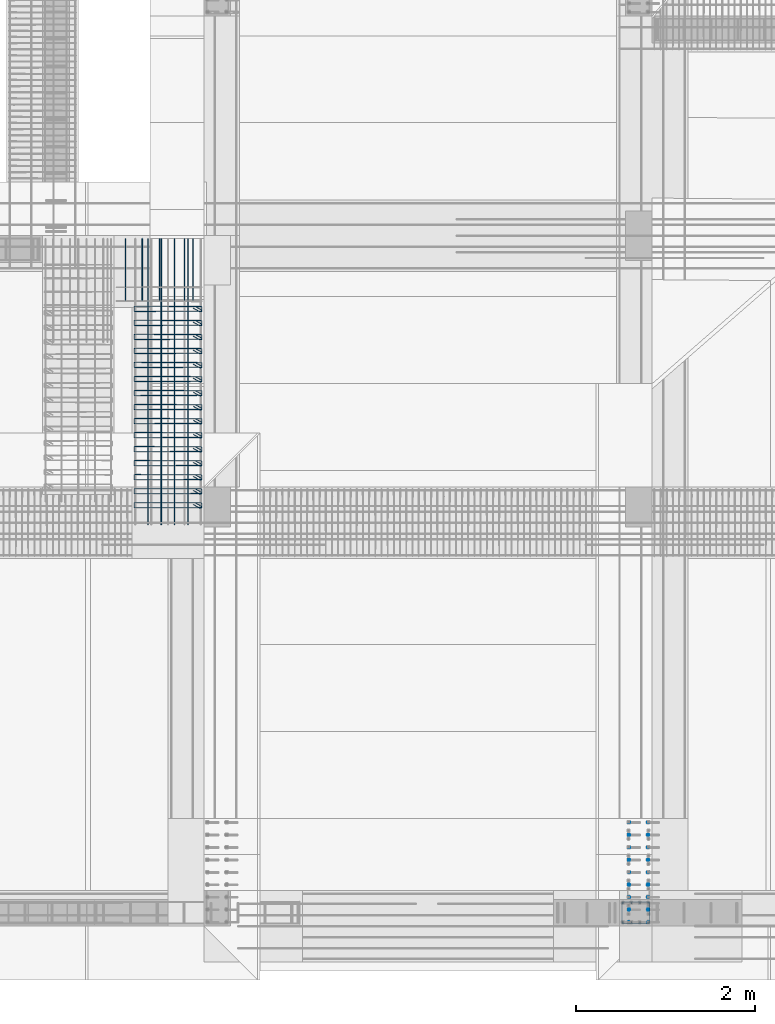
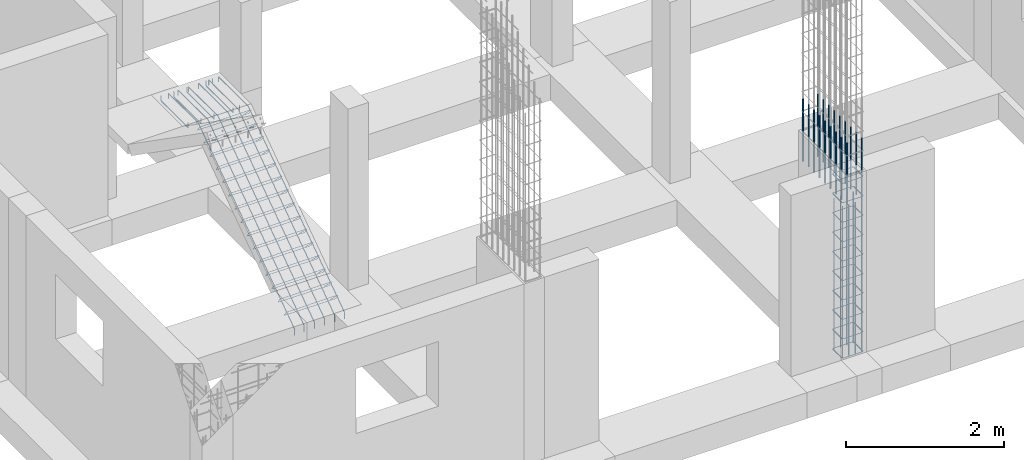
# One storey, part 6 of 15: 6 reinforcing bars.
"""IFC4 building model written with IfcOpenShell, lengths in metres."""

import ifcopenshell
import ifcopenshell.guid

model = None  # the IFC model being written
_history = None  # IfcOwnerHistory: only IFC2X3 demands one
_inside = {}  # id of a spatial element -> (the spatial element, [elements in it])
_under = {}  # id of a project, library or spatial element -> (it, [spatial elements below it])
_declared = {}  # id of a project -> (the project, [libraries it declares])
_typed = {}  # id of a type object -> (the type object, [elements of that type])
_made_of = {}  # id of a material, layer set ... -> (it, [elements and type objects made of it])


def new_model(schema):
    """Start an empty IFC model of exactly this schema.

    Asked for "IFC4X3", IfcOpenShell would pick the latest addendum, in which some entities
    have other attributes; the version numbers below select the first issue.
    IFC2X3 requires an IfcOwnerHistory on every rooted entity: one is made here for all.
    """
    global model, _history
    if schema == "IFC4X3":
        model = ifcopenshell.file(schema_version=(4, 3, 0, 0))
    else:
        model = ifcopenshell.file(schema=schema)
    _inside.clear()
    _under.clear()
    _declared.clear()
    _typed.clear()
    _made_of.clear()
    _history = None
    if model.schema == "IFC2X3":
        org = make("IfcOrganization", Name="unknown")
        user = make(
            "IfcPersonAndOrganization",
            ThePerson=make("IfcPerson", FamilyName="unknown"),
            TheOrganization=org,
        )
        app = make(
            "IfcApplication",
            ApplicationDeveloper=org,
            Version="unknown",
            ApplicationFullName="unknown",
            ApplicationIdentifier="unknown",
        )
        _history = make(
            "IfcOwnerHistory",
            OwningUser=user,
            OwningApplication=app,
            ChangeAction="ADDED",
            CreationDate=0,
        )
    return model


def make(cls, **values):
    """One entity of the class cls with the attributes given. An attribute that is None is left unset."""
    return model.create_entity(
        cls, **{name: value for name, value in values.items() if value is not None}
    )


def entity(cls, *values):
    """Any entity or typed value of the class cls, its attributes in the order of the schema. None: left unset."""
    e = model.create_entity(cls)
    for i, value in enumerate(values):
        if value is not None:
            e[i] = value
    return e


def rooted(cls, **values):
    """An entity with a GlobalId (a new one), such as an element, a storey or a relation."""
    return make(cls, GlobalId=ifcopenshell.guid.new(), OwnerHistory=_history, **values)


def si_unit(unit_type, name, prefix=None):
    """IfcSIUnit, for example si_unit("LENGTHUNIT", "METRE", prefix="MILLI")."""
    return make("IfcSIUnit", UnitType=unit_type, Prefix=prefix, Name=name)


def assignment(units):
    """IfcUnitAssignment: the units of a project."""
    return None if units is None else make("IfcUnitAssignment", Units=units)


def point(xyz):
    """IfcCartesianPoint."""
    return None if xyz is None else make("IfcCartesianPoint", Coordinates=xyz)


def direction(xyz):
    """IfcDirection."""
    return None if xyz is None else make("IfcDirection", DirectionRatios=xyz)


def frame(location, z_axis=None, x_axis=None):
    """IfcAxis2Placement3D, a coordinate frame: its origin and axes. An axis left out is left unset."""
    return make(
        "IfcAxis2Placement3D",
        Location=point(location),
        Axis=direction(z_axis),
        RefDirection=direction(x_axis),
    )


def origin_with_axes():
    """The frame at (0, 0, 0) with the z axis (0, 0, 1) and the x axis (1, 0, 0) written out."""
    return frame((0.0, 0.0, 0.0), z_axis=(0.0, 0.0, 1.0), x_axis=(1.0, 0.0, 0.0))


def place(relative_to, where):
    """IfcLocalPlacement: puts the frame where relative to a parent placement (None: the world)."""
    return make(
        "IfcLocalPlacement", PlacementRelTo=relative_to, RelativePlacement=where
    )


def context(
    kind, dimensions, precision=None, world=None, true_north=None, identifier=None
):
    """IfcGeometricRepresentationContext, for example the 3D "Model" context."""
    return make(
        "IfcGeometricRepresentationContext",
        ContextIdentifier=identifier,
        ContextType=kind,
        CoordinateSpaceDimension=dimensions,
        Precision=precision,
        WorldCoordinateSystem=world,
        TrueNorth=true_north,
    )


def project(units=None, contexts=None):
    """IfcProject with its units and contexts."""
    return rooted(
        "IfcProject",
        Name="project",
        RepresentationContexts=contexts,
        UnitsInContext=assignment(units),
    )


def spatial(cls, under=None, at=None, **own):
    """A site, building, storey or space (cls), placed at a placement, below another one or the project."""
    s = rooted(cls, ObjectPlacement=at, **own)
    if under is not None:
        _under.setdefault(under.id(), (under, []))[1].append(s)
    return s


def shape(context_of_items, identifier, shape_type, items):
    """IfcShapeRepresentation: the items that make up one representation, for example the "Body"."""
    return make(
        "IfcShapeRepresentation",
        ContextOfItems=context_of_items,
        RepresentationIdentifier=identifier,
        RepresentationType=shape_type,
        Items=items,
    )


def source(mapping_origin, context_of_items, identifier, shape_type, items):
    """IfcRepresentationMap: a shape defined once, which mapped items show again and again."""
    return make(
        "IfcRepresentationMap",
        MappingOrigin=mapping_origin,
        MappedRepresentation=shape(context_of_items, identifier, shape_type, items),
    )


def transform(
    local_origin,
    x_axis=None,
    y_axis=None,
    z_axis=None,
    scale=None,
    scale2=None,
    scale3=None,
    uniform=True,
):
    """IfcCartesianTransformationOperator3D, or its non-uniform kind. x_axis, y_axis, z_axis: its Axis1, 2, 3."""
    if uniform:
        return make(
            "IfcCartesianTransformationOperator3D",
            Axis1=direction(x_axis),
            Axis2=direction(y_axis),
            LocalOrigin=point(local_origin),
            Scale=scale,
            Axis3=direction(z_axis),
        )
    return make(
        "IfcCartesianTransformationOperator3DnonUniform",
        Axis1=direction(x_axis),
        Axis2=direction(y_axis),
        LocalOrigin=point(local_origin),
        Scale=scale,
        Axis3=direction(z_axis),
        Scale2=scale2,
        Scale3=scale3,
    )


def mapped(mapping_source, mapping_target):
    """IfcMappedItem: shows the shape of a source again, moved by a transform."""
    return make(
        "IfcMappedItem", MappingSource=mapping_source, MappingTarget=mapping_target
    )


def made_of(thing, what):
    """Note that an element or type object is made of a material, layer set ...; save() writes the relation."""
    if what is not None:
        _made_of.setdefault(what.id(), (what, []))[1].append(thing)
    return thing


def element(
    cls,
    number,
    at=None,
    inside=None,
    cuts=None,
    type_object=None,
    material=None,
    context=None,
    identifier="Body",
    shape_type=None,
    held_by="IfcProductDefinitionShape",
    body=None,
    shapes=None,
    **own,
):
    """One element of the class cls, such as IfcWall. Its Tag is "e" and its number.

    at: its placement. inside: the storey or other place that contains it. cuts: it is an
    opening in that element (IfcRelVoidsElement). A single representation is given by context,
    identifier, shape_type and body (its items); several are given by shapes. held_by: the class
    of the entity that holds the representations. save() writes the other relations.
    """
    e = rooted(cls, Tag="e%d" % number, ObjectPlacement=at, **own)
    if body is not None:
        shapes = [shape(context, identifier, shape_type, body)]
    if shapes is not None:
        e.Representation = make(held_by, Representations=shapes)
    if inside is not None:
        _inside.setdefault(inside.id(), (inside, []))[1].append(e)
    if cuts is not None:
        rooted(
            "IfcRelVoidsElement", RelatingBuildingElement=cuts, RelatedOpeningElement=e
        )
    if type_object is not None:
        _typed.setdefault(type_object.id(), (type_object, []))[1].append(e)
    return made_of(e, material)


def aggregate(whole, parts):
    """IfcRelAggregates: a whole, such as a stair, and the parts it consists of."""
    return rooted("IfcRelAggregates", RelatingObject=whole, RelatedObjects=parts)


def save(model, path):
    """Write the relations noted so far, then the file.

    IfcRelAggregates (storeys below a building ...), IfcRelContainedInSpatialStructure (elements
    in a storey), IfcRelDefinesByType, IfcRelAssociatesMaterial and IfcRelDeclares: one each for
    every whole, place, type object, material and project.
    """
    for whole, parts in _under.values():
        aggregate(whole, parts)
    for where, things in _inside.values():
        rooted(
            "IfcRelContainedInSpatialStructure",
            RelatedElements=things,
            RelatingStructure=where,
        )
    for kind, things in _typed.values():
        rooted("IfcRelDefinesByType", RelatedObjects=things, RelatingType=kind)
    for what, things in _made_of.values():
        rooted("IfcRelAssociatesMaterial", RelatedObjects=things, RelatingMaterial=what)
    for by, libraries in _declared.values():
        rooted("IfcRelDeclares", RelatingContext=by, RelatedDefinitions=libraries)
    model.write(path)


model = new_model("IFC4")

# Units and contexts
model_context = context("Model", 3, precision=1e-05, world=origin_with_axes())
ifc_project = project(units=[si_unit("LENGTHUNIT", "METRE"), si_unit("AREAUNIT", "SQUARE_METRE"), si_unit("VOLUMEUNIT", "CUBIC_METRE"), si_unit("MASSUNIT", "GRAM", prefix="KILO"), si_unit("TIMEUNIT", "SECOND"), si_unit("PLANEANGLEUNIT", "RADIAN"), si_unit("SOLIDANGLEUNIT", "STERADIAN"), si_unit("THERMODYNAMICTEMPERATUREUNIT", "DEGREE_CELSIUS")], contexts=[model_context])

# Site, building, storey
placement_1 = place(None, origin_with_axes())
site = spatial("IfcSite", under=ifc_project, at=placement_1, Name="Italia", CompositionType="ELEMENT")
building = spatial("IfcBuilding", under=site, at=placement_1, Name="Bifamiliare", CompositionType="ELEMENT")
storey = spatial("IfcBuildingStorey", under=building, at=placement_1, Name="Storey 0", CompositionType="ELEMENT", Elevation=0.0)

# Reinforcing bars
shared_shape_1 = source(origin_with_axes(), model_context, "Body", "AdvancedSweptSolid", [
    entity("IfcSweptDiskSolid", entity("IfcIndexedPolyCurve", entity("IfcCartesianPointList3D", [[10.757, 2.557, 2.33333], [10.757, 2.557, 3.3]]), [entity("IfcLineIndex", [1, 2])], False), 0.01),
])
placement_2 = place(placement_1, origin_with_axes())
reinforcing_bar_1_placement = place(placement_2, origin_with_axes())
element("IfcReinforcingBar", 1, at=reinforcing_bar_1_placement, inside=storey, BarLength=0.966667, CrossSectionArea=0.00031416, NominalDiameter=0.02, context=model_context, shape_type="MappedRepresentation", body=[
    mapped(shared_shape_1, transform((0.0, -1.114, 0.0), x_axis=(1.0, 0.0, 0.0), y_axis=(0.0, 1.0, 0.0), z_axis=(0.0, 0.0, 1.0), scale=1.0)),
    mapped(shared_shape_1, transform((0.0, -0.97325, 0.0), x_axis=(1.0, 0.0, 0.0), y_axis=(0.0, 1.0, 0.0), z_axis=(0.0, 0.0, 1.0), scale=1.0)),
    mapped(shared_shape_1, transform((0.0, -0.8345, 0.0), x_axis=(1.0, 0.0, 0.0), y_axis=(0.0, 1.0, 0.0), z_axis=(0.0, 0.0, 1.0), scale=1.0)),
    mapped(shared_shape_1, transform((0.0, -0.69575, 0.0), x_axis=(1.0, 0.0, 0.0), y_axis=(0.0, 1.0, 0.0), z_axis=(0.0, 0.0, 1.0), scale=1.0)),
    mapped(shared_shape_1, transform((0.0, -0.557, 0.0), x_axis=(1.0, 0.0, 0.0), y_axis=(0.0, 1.0, 0.0), z_axis=(0.0, 0.0, 1.0), scale=1.0)),
    mapped(shared_shape_1, transform((0.0, -0.41825, 0.0), x_axis=(1.0, 0.0, 0.0), y_axis=(0.0, 1.0, 0.0), z_axis=(0.0, 0.0, 1.0), scale=1.0)),
    mapped(shared_shape_1, transform((0.0, -0.2795, 0.0), x_axis=(1.0, 0.0, 0.0), y_axis=(0.0, 1.0, 0.0), z_axis=(0.0, 0.0, 1.0), scale=1.0)),
    mapped(shared_shape_1, transform((0.0, -0.14075, 0.0), x_axis=(1.0, 0.0, 0.0), y_axis=(0.0, 1.0, 0.0), z_axis=(0.0, 0.0, 1.0), scale=1.0)),
    mapped(shared_shape_1, transform((0.0, 0.0, 0.0), x_axis=(1.0, 0.0, 0.0), y_axis=(0.0, 1.0, 0.0), z_axis=(0.0, 0.0, 1.0), scale=1.0)),
    mapped(shared_shape_1, transform((-0.214001, 0.0, 0.0), x_axis=(1.0, 0.0, 0.0), y_axis=(0.0, 1.0, 0.0), z_axis=(0.0, 0.0, 1.0), scale=1.0)),
    mapped(shared_shape_1, transform((-0.214001, -0.14075, 0.0), x_axis=(1.0, 0.0, 0.0), y_axis=(0.0, 1.0, 0.0), z_axis=(0.0, 0.0, 1.0), scale=1.0)),
    mapped(shared_shape_1, transform((-0.214001, -0.2795, 0.0), x_axis=(1.0, 0.0, 0.0), y_axis=(0.0, 1.0, 0.0), z_axis=(0.0, 0.0, 1.0), scale=1.0)),
    mapped(shared_shape_1, transform((-0.214001, -0.41825, 0.0), x_axis=(1.0, 0.0, 0.0), y_axis=(0.0, 1.0, 0.0), z_axis=(0.0, 0.0, 1.0), scale=1.0)),
    mapped(shared_shape_1, transform((-0.214001, -0.557, 0.0), x_axis=(1.0, 0.0, 0.0), y_axis=(0.0, 1.0, 0.0), z_axis=(0.0, 0.0, 1.0), scale=1.0)),
    mapped(shared_shape_1, transform((-0.214001, -0.69575, 0.0), x_axis=(1.0, 0.0, 0.0), y_axis=(0.0, 1.0, 0.0), z_axis=(0.0, 0.0, 1.0), scale=1.0)),
    mapped(shared_shape_1, transform((-0.214001, -0.8345, 0.0), x_axis=(1.0, 0.0, 0.0), y_axis=(0.0, 1.0, 0.0), z_axis=(0.0, 0.0, 1.0), scale=1.0)),
    mapped(shared_shape_1, transform((-0.214001, -0.97325, 0.0), x_axis=(1.0, 0.0, 0.0), y_axis=(0.0, 1.0, 0.0), z_axis=(0.0, 0.0, 1.0), scale=1.0)),
    mapped(shared_shape_1, transform((-0.214001, -1.114, 0.0), x_axis=(1.0, 0.0, 0.0), y_axis=(0.0, 1.0, 0.0), z_axis=(0.0, 0.0, 1.0), scale=1.0)),
])
shared_shape_2 = source(origin_with_axes(), model_context, "Body", "AdvancedSweptSolid", [
    entity("IfcSweptDiskSolid", entity("IfcIndexedPolyCurve", entity("IfcCartesianPointList3D", [[10.757, 1.443, 0.0], [10.757, 1.443, 0.466668]]), [entity("IfcLineIndex", [1, 2])], False), 0.008),
])
reinforcing_bar_2_placement = place(placement_2, origin_with_axes())
element("IfcReinforcingBar", 2, at=reinforcing_bar_2_placement, inside=storey, BarLength=0.466668, CrossSectionArea=0.00020106, NominalDiameter=0.016, context=model_context, shape_type="MappedRepresentation", body=[
    mapped(shared_shape_2, transform((-0.0935555, 0.214, 0.0), x_axis=(1.0, 0.0, 0.0), y_axis=(0.0, 1.0, 0.0), z_axis=(0.0, 0.0, 1.0), scale=1.0)),
    mapped(shared_shape_2, transform((-0.187111, 0.0, 0.0), x_axis=(1.0, 0.0, 0.0), y_axis=(0.0, 1.0, 0.0), z_axis=(0.0, 0.0, 1.0), scale=1.0)),
    mapped(shared_shape_2, transform((-0.280666, 0.0, 0.0), x_axis=(1.0, 0.0, 0.0), y_axis=(0.0, 1.0, 0.0), z_axis=(0.0, 0.0, 1.0), scale=1.0)),
    mapped(shared_shape_2, transform((-0.280667, 0.0, 0.466667), x_axis=(1.0, 0.0, 0.0), y_axis=(0.0, 1.0, 0.0), z_axis=(0.0, 0.0, 1.0), scale=1.0)),
    mapped(shared_shape_2, transform((-0.280666, 0.0, 1.86667), x_axis=(1.0, 0.0, 0.0), y_axis=(0.0, 1.0, 0.0), z_axis=(0.0, 0.0, 1.0), scale=1.0)),
    mapped(shared_shape_2, transform((-0.280666, 0.0, 1.4), x_axis=(1.0, 0.0, 0.0), y_axis=(0.0, 1.0, 0.0), z_axis=(0.0, 0.0, 1.0), scale=1.0)),
    mapped(shared_shape_2, transform((-0.187111, 0.0, 1.86667), x_axis=(1.0, 0.0, 0.0), y_axis=(0.0, 1.0, 0.0), z_axis=(0.0, 0.0, 1.0), scale=1.0)),
    mapped(shared_shape_2, transform((-0.187111, 0.0, 0.933333), x_axis=(1.0, 0.0, 0.0), y_axis=(0.0, 1.0, 0.0), z_axis=(0.0, 0.0, 1.0), scale=1.0)),
    mapped(shared_shape_2, transform((-0.280666, 0.0, 0.933333), x_axis=(1.0, 0.0, 0.0), y_axis=(0.0, 1.0, 0.0), z_axis=(0.0, 0.0, 1.0), scale=1.0)),
    mapped(shared_shape_2, transform((-0.187111, 0.0, 1.4), x_axis=(1.0, 0.0, 0.0), y_axis=(0.0, 1.0, 0.0), z_axis=(0.0, 0.0, 1.0), scale=1.0)),
    mapped(shared_shape_2, transform((-0.187111, 0.0, 0.466667), x_axis=(1.0, 0.0, 0.0), y_axis=(0.0, 1.0, 0.0), z_axis=(0.0, 0.0, 1.0), scale=1.0)),
    mapped(shared_shape_2, transform((-0.0935555, 0.0, 1.4), x_axis=(1.0, 0.0, 0.0), y_axis=(0.0, 1.0, 0.0), z_axis=(0.0, 0.0, 1.0), scale=1.0)),
    mapped(shared_shape_2, transform((-0.0935555, 0.0, 0.933333), x_axis=(1.0, 0.0, 0.0), y_axis=(0.0, 1.0, 0.0), z_axis=(0.0, 0.0, 1.0), scale=1.0)),
    mapped(shared_shape_2, transform((-0.0935555, 0.0, 1.86667), x_axis=(1.0, 0.0, 0.0), y_axis=(0.0, 1.0, 0.0), z_axis=(0.0, 0.0, 1.0), scale=1.0)),
    mapped(shared_shape_2, transform((-0.187111, 0.214, 0.0), x_axis=(1.0, 0.0, 0.0), y_axis=(0.0, 1.0, 0.0), z_axis=(0.0, 0.0, 1.0), scale=1.0)),
    mapped(shared_shape_2, transform((-0.280666, 0.214, 0.0), x_axis=(1.0, 0.0, 0.0), y_axis=(0.0, 1.0, 0.0), z_axis=(0.0, 0.0, 1.0), scale=1.0)),
    mapped(shared_shape_2, transform((0.0, 0.214, 0.0), x_axis=(1.0, 0.0, 0.0), y_axis=(0.0, 1.0, 0.0), z_axis=(0.0, 0.0, 1.0), scale=1.0)),
    mapped(shared_shape_2, transform((-0.187111, 0.214, 0.466667), x_axis=(1.0, 0.0, 0.0), y_axis=(0.0, 1.0, 0.0), z_axis=(0.0, 0.0, 1.0), scale=1.0)),
    mapped(shared_shape_2, transform((-0.280667, 0.214, 0.466667), x_axis=(1.0, 0.0, 0.0), y_axis=(0.0, 1.0, 0.0), z_axis=(0.0, 0.0, 1.0), scale=1.0)),
    mapped(shared_shape_2, transform((-0.280666, 0.214, 0.933333), x_axis=(1.0, 0.0, 0.0), y_axis=(0.0, 1.0, 0.0), z_axis=(0.0, 0.0, 1.0), scale=1.0)),
    mapped(shared_shape_2, transform((-0.280666, 0.214, 1.4), x_axis=(1.0, 0.0, 0.0), y_axis=(0.0, 1.0, 0.0), z_axis=(0.0, 0.0, 1.0), scale=1.0)),
    mapped(shared_shape_2, transform((-0.0935555, 0.214, 1.86667), x_axis=(1.0, 0.0, 0.0), y_axis=(0.0, 1.0, 0.0), z_axis=(0.0, 0.0, 1.0), scale=1.0)),
    mapped(shared_shape_2, transform((-0.187111, 0.214, 1.86667), x_axis=(1.0, 0.0, 0.0), y_axis=(0.0, 1.0, 0.0), z_axis=(0.0, 0.0, 1.0), scale=1.0)),
    mapped(shared_shape_2, transform((-0.0935555, 0.214, 1.4), x_axis=(1.0, 0.0, 0.0), y_axis=(0.0, 1.0, 0.0), z_axis=(0.0, 0.0, 1.0), scale=1.0)),
    mapped(shared_shape_2, transform((-0.0935555, 0.214, 0.933333), x_axis=(1.0, 0.0, 0.0), y_axis=(0.0, 1.0, 0.0), z_axis=(0.0, 0.0, 1.0), scale=1.0)),
    mapped(shared_shape_2, transform((-0.187111, 0.214, 1.4), x_axis=(1.0, 0.0, 0.0), y_axis=(0.0, 1.0, 0.0), z_axis=(0.0, 0.0, 1.0), scale=1.0)),
    mapped(shared_shape_2, transform((-0.187111, 0.214, 0.933333), x_axis=(1.0, 0.0, 0.0), y_axis=(0.0, 1.0, 0.0), z_axis=(0.0, 0.0, 1.0), scale=1.0)),
    mapped(shared_shape_2, transform((-0.280666, 0.214, 1.86667), x_axis=(1.0, 0.0, 0.0), y_axis=(0.0, 1.0, 0.0), z_axis=(0.0, 0.0, 1.0), scale=1.0)),
    mapped(shared_shape_2, transform((-0.0935555, 0.0, 0.466667), x_axis=(1.0, 0.0, 0.0), y_axis=(0.0, 1.0, 0.0), z_axis=(0.0, 0.0, 1.0), scale=1.0)),
    mapped(shared_shape_2, transform((0.0, 0.0, 0.933333), x_axis=(1.0, 0.0, 0.0), y_axis=(0.0, 1.0, 0.0), z_axis=(0.0, 0.0, 1.0), scale=1.0)),
    mapped(shared_shape_2, transform((0.0, 0.0, 1.86667), x_axis=(1.0, 0.0, 0.0), y_axis=(0.0, 1.0, 0.0), z_axis=(0.0, 0.0, 1.0), scale=1.0)),
    mapped(shared_shape_2, transform((0.0, 0.0, 1.4), x_axis=(1.0, 0.0, 0.0), y_axis=(0.0, 1.0, 0.0), z_axis=(0.0, 0.0, 1.0), scale=1.0)),
    mapped(shared_shape_2, transform((-0.0935555, 0.0, 0.0), x_axis=(1.0, 0.0, 0.0), y_axis=(0.0, 1.0, 0.0), z_axis=(0.0, 0.0, 1.0), scale=1.0)),
    mapped(shared_shape_2, transform((0.0, 0.0, 0.0), x_axis=(1.0, 0.0, 0.0), y_axis=(0.0, 1.0, 0.0), z_axis=(0.0, 0.0, 1.0), scale=1.0)),
    mapped(shared_shape_2, transform((0.0, 0.214, 0.466667), x_axis=(1.0, 0.0, 0.0), y_axis=(0.0, 1.0, 0.0), z_axis=(0.0, 0.0, 1.0), scale=1.0)),
    mapped(shared_shape_2, transform((0.0, 0.0, 0.466667), x_axis=(1.0, 0.0, 0.0), y_axis=(0.0, 1.0, 0.0), z_axis=(0.0, 0.0, 1.0), scale=1.0)),
    mapped(shared_shape_2, transform((-0.0935555, 0.214, 0.466667), x_axis=(1.0, 0.0, 0.0), y_axis=(0.0, 1.0, 0.0), z_axis=(0.0, 0.0, 1.0), scale=1.0)),
    mapped(shared_shape_2, transform((0.0, 0.214, 0.933333), x_axis=(1.0, 0.0, 0.0), y_axis=(0.0, 1.0, 0.0), z_axis=(0.0, 0.0, 1.0), scale=1.0)),
    mapped(shared_shape_2, transform((0.0, 0.214, 1.4), x_axis=(1.0, 0.0, 0.0), y_axis=(0.0, 1.0, 0.0), z_axis=(0.0, 0.0, 1.0), scale=1.0)),
    mapped(shared_shape_2, transform((0.0, 0.214, 1.86667), x_axis=(1.0, 0.0, 0.0), y_axis=(0.0, 1.0, 0.0), z_axis=(0.0, 0.0, 1.0), scale=1.0)),
])
shared_shape_3 = source(origin_with_axes(), model_context, "Body", "AdvancedSweptSolid", [
    entity("IfcSweptDiskSolid", entity("IfcIndexedPolyCurve", entity("IfcCartesianPointList3D", [[10.4633, 1.43, 0.01], [10.4633, 1.66, 0.01], [10.4641, 1.66383, 0.01], [10.4663, 1.66707, 0.01], [10.4695, 1.66924, 0.01], [10.4733, 1.67, 0.01], [10.76, 1.67, 0.01], [10.7638, 1.66924, 0.01], [10.7671, 1.66707, 0.01], [10.7692, 1.66383, 0.01], [10.77, 1.66, 0.01], [10.77, 1.43, 0.01]]), [entity("IfcLineIndex", [1, 2]), entity("IfcLineIndex", [2, 3]), entity("IfcLineIndex", [3, 4]), entity("IfcLineIndex", [4, 5]), entity("IfcLineIndex", [5, 6]), entity("IfcLineIndex", [6, 7]), entity("IfcLineIndex", [7, 8]), entity("IfcLineIndex", [8, 9]), entity("IfcLineIndex", [9, 10]), entity("IfcLineIndex", [10, 11]), entity("IfcLineIndex", [11, 12])], False), 0.005),
])
reinforcing_bar_3_placement = place(placement_2, origin_with_axes())
element("IfcReinforcingBar", 3, at=reinforcing_bar_3_placement, inside=storey, BarLength=0.777882, CrossSectionArea=7.854e-05, NominalDiameter=0.01, context=model_context, shape_type="MappedRepresentation", body=[
    mapped(shared_shape_3, transform((0.0, 0.0, 0.0), x_axis=(1.0, 0.0, 0.0), y_axis=(0.0, 1.0, 0.0), z_axis=(0.0, 0.0, 1.0), scale=1.0)),
    mapped(shared_shape_3, transform((0.0, 0.0, 0.6), x_axis=(1.0, 0.0, 0.0), y_axis=(0.0, 1.0, 0.0), z_axis=(0.0, 0.0, 1.0), scale=1.0)),
    mapped(shared_shape_3, transform((0.0, 0.0, 0.3), x_axis=(1.0, 0.0, 0.0), y_axis=(0.0, 1.0, 0.0), z_axis=(0.0, 0.0, 1.0), scale=1.0)),
    mapped(shared_shape_3, transform((21.2333, 3.1, 0.89), x_axis=(-1.0, 0.0, 0.0), y_axis=(0.0, -1.0, 0.0), z_axis=(0.0, 0.0, 1.0), scale=1.0)),
    mapped(shared_shape_3, transform((21.2333, 3.1, 0.59), x_axis=(-1.0, 0.0, 0.0), y_axis=(0.0, -1.0, 0.0), z_axis=(0.0, 0.0, 1.0), scale=1.0)),
    mapped(shared_shape_3, transform((0.0, 0.0, 1.2), x_axis=(1.0, 0.0, 0.0), y_axis=(0.0, 1.0, 0.0), z_axis=(0.0, 0.0, 1.0), scale=1.0)),
    mapped(shared_shape_3, transform((21.2333, 3.1, 0.29), x_axis=(-1.0, 0.0, 0.0), y_axis=(0.0, -1.0, 0.0), z_axis=(0.0, 0.0, 1.0), scale=1.0)),
    mapped(shared_shape_3, transform((0.0, 0.0, 1.5), x_axis=(1.0, 0.0, 0.0), y_axis=(0.0, 1.0, 0.0), z_axis=(0.0, 0.0, 1.0), scale=1.0)),
    mapped(shared_shape_3, transform((0.0, 0.0, 0.9), x_axis=(1.0, 0.0, 0.0), y_axis=(0.0, 1.0, 0.0), z_axis=(0.0, 0.0, 1.0), scale=1.0)),
    mapped(shared_shape_3, transform((21.2333, 3.1, 1.19), x_axis=(-1.0, 0.0, 0.0), y_axis=(0.0, -1.0, 0.0), z_axis=(0.0, 0.0, 1.0), scale=1.0)),
    mapped(shared_shape_3, transform((21.2333, 3.1, 1.79), x_axis=(-1.0, 0.0, 0.0), y_axis=(0.0, -1.0, 0.0), z_axis=(0.0, 0.0, 1.0), scale=1.0)),
    mapped(shared_shape_3, transform((21.2333, 3.1, 1.49), x_axis=(-1.0, 0.0, 0.0), y_axis=(0.0, -1.0, 0.0), z_axis=(0.0, 0.0, 1.0), scale=1.0)),
    mapped(shared_shape_3, transform((0.0, 0.0, 2.7), x_axis=(1.0, 0.0, 0.0), y_axis=(0.0, 1.0, 0.0), z_axis=(0.0, 0.0, 1.0), scale=1.0)),
    mapped(shared_shape_3, transform((21.2333, 3.1, -0.01), x_axis=(-1.0, 0.0, 0.0), y_axis=(0.0, -1.0, 0.0), z_axis=(0.0, 0.0, 1.0), scale=1.0)),
    mapped(shared_shape_3, transform((0.0, 0.0, 2.1), x_axis=(1.0, 0.0, 0.0), y_axis=(0.0, 1.0, 0.0), z_axis=(0.0, 0.0, 1.0), scale=1.0)),
    mapped(shared_shape_3, transform((0.0, 0.0, 2.4), x_axis=(1.0, 0.0, 0.0), y_axis=(0.0, 1.0, 0.0), z_axis=(0.0, 0.0, 1.0), scale=1.0)),
    mapped(shared_shape_3, transform((0.0, 0.0, 1.8), x_axis=(1.0, 0.0, 0.0), y_axis=(0.0, 1.0, 0.0), z_axis=(0.0, 0.0, 1.0), scale=1.0)),
    mapped(shared_shape_3, transform((21.2333, 3.1, 2.39), x_axis=(-1.0, 0.0, 0.0), y_axis=(0.0, -1.0, 0.0), z_axis=(0.0, 0.0, 1.0), scale=1.0)),
    mapped(shared_shape_3, transform((21.2333, 3.1, 2.09), x_axis=(-1.0, 0.0, 0.0), y_axis=(0.0, -1.0, 0.0), z_axis=(0.0, 0.0, 1.0), scale=1.0)),
    mapped(shared_shape_3, transform((21.2333, 3.1, 2.69), x_axis=(-1.0, 0.0, 0.0), y_axis=(0.0, -1.0, 0.0), z_axis=(0.0, 0.0, 1.0), scale=1.0)),
])
shared_shape_4 = source(origin_with_axes(), model_context, "Body", "AdvancedSweptSolid", [
    entity("IfcSweptDiskSolid", entity("IfcIndexedPolyCurve", entity("IfcCartesianPointList3D", [[5.70529, 6.12128, -0.266344], [5.77307, 6.08205, -0.21107], [5.776, 6.07796, -0.205298], [5.776, 6.07401, -0.199698], [5.77524, 6.0718, -0.196574], [5.77307, 6.06992, -0.193926], [5.76983, 6.06866, -0.192161], [5.766, 6.06821, -0.191547], [5.034, 6.06542, -0.1935], [5.03017, 6.06584, -0.194134], [5.02693, 6.06707, -0.19592], [5.02476, 6.06892, -0.198589], [5.024, 6.0711, -0.201734], [5.024, 6.11781, -0.26913], [5.02476, 6.11999, -0.272275], [5.02693, 6.12183, -0.274943], [5.03017, 6.12306, -0.27673], [5.034, 6.12348, -0.277364], [5.766, 6.12069, -0.279317], [5.76983, 6.12024, -0.278703], [5.77307, 6.11899, -0.276938], [5.77524, 6.11711, -0.274291], [5.776, 6.1149, -0.271166], [5.776, 6.06756, -0.204208], [5.77524, 6.06535, -0.201083], [5.77307, 6.06348, -0.198436], [5.76983, 6.06222, -0.19667], [5.766, 6.06177, -0.196057], [5.75914, 6.06174, -0.196075], [5.75207, 6.06339, -0.198495], [5.68429, 6.1019, -0.25428]]), [entity("IfcLineIndex", [1, 2]), entity("IfcLineIndex", [2, 3]), entity("IfcLineIndex", [3, 4]), entity("IfcLineIndex", [4, 5]), entity("IfcLineIndex", [5, 6]), entity("IfcLineIndex", [6, 7]), entity("IfcLineIndex", [7, 8]), entity("IfcLineIndex", [8, 9]), entity("IfcLineIndex", [9, 10]), entity("IfcLineIndex", [10, 11]), entity("IfcLineIndex", [11, 12]), entity("IfcLineIndex", [12, 13]), entity("IfcLineIndex", [13, 14]), entity("IfcLineIndex", [14, 15]), entity("IfcLineIndex", [15, 16]), entity("IfcLineIndex", [16, 17]), entity("IfcLineIndex", [17, 18]), entity("IfcLineIndex", [18, 19]), entity("IfcLineIndex", [19, 20]), entity("IfcLineIndex", [20, 21]), entity("IfcLineIndex", [21, 22]), entity("IfcLineIndex", [22, 23]), entity("IfcLineIndex", [23, 24]), entity("IfcLineIndex", [24, 25]), entity("IfcLineIndex", [25, 26]), entity("IfcLineIndex", [26, 27]), entity("IfcLineIndex", [27, 28]), entity("IfcLineIndex", [28, 29]), entity("IfcLineIndex", [29, 30]), entity("IfcLineIndex", [30, 31])], False), 0.004),
])
reinforcing_bar_4_placement = place(placement_2, origin_with_axes())
element("IfcReinforcingBar", 4, at=reinforcing_bar_4_placement, inside=storey, BarLength=1.9268, CrossSectionArea=5.0265e-05, NominalDiameter=0.008, context=model_context, shape_type="MappedRepresentation", body=[
    mapped(shared_shape_4, transform((0.0, 0.0, 0.0), x_axis=(1.0, 0.0, 0.0), y_axis=(0.0, 1.0, 0.0), z_axis=(0.0, 0.0, 1.0), scale=1.0)),
    mapped(shared_shape_4, transform((-5.91278e-05, 0.156486, 0.109619), x_axis=(1.0, -1.0103e-05, 0.0), y_axis=(1.01328e-05, 1.0, -1.12802e-05), z_axis=(0.0, 1.12801e-05, 1.0), scale=1.0)),
    mapped(shared_shape_4, transform((0.000140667, 0.312703, 0.21861), x_axis=(1.0, 2.38419e-05, 1.94311e-05), y_axis=(-2.38717e-05, 1.0, 4.4927e-05), z_axis=(-1.943e-05, -4.49275e-05, 1.0), scale=1.0)),
    mapped(shared_shape_4, transform((-0.000499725, 0.46978, 0.329356), x_axis=(1.0, -8.4281e-05, -5.72801e-05), y_axis=(8.42214e-05, 1.0, -8.76635e-05), z_axis=(5.72875e-05, 8.76587e-05, 1.0), scale=1.0)),
    mapped(shared_shape_4, transform((0.0, 0.782125, 0.547487), x_axis=(1.0, 0.0, 0.0), y_axis=(0.0, 1.0, 0.0), z_axis=(0.0, 0.0, 1.0), scale=1.0)),
    mapped(shared_shape_4, transform((0.000522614, 0.625166, 0.436919), x_axis=(1.0, 8.81553e-05, 6.25253e-05), y_axis=(-8.80957e-05, 1.0, 0.000116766), z_axis=(-6.2515e-05, -0.000116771, 1.0), scale=1.0)),
    mapped(shared_shape_4, transform((-0.000478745, 0.939033, 0.657807), x_axis=(1.0, -8.07345e-05, -5.43594e-05), y_axis=(8.05557e-05, 1.0, -8.36104e-05), z_axis=(5.43662e-05, 8.3606e-05, 1.0), scale=1.0)),
    mapped(shared_shape_4, transform((0.000411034, 1.09456, 0.765624), x_axis=(1.0, 6.94692e-05, 5.1111e-05), y_axis=(-6.92904e-05, 1.0, 9.26554e-05), z_axis=(-5.11045e-05, -9.2659e-05, 1.0), scale=1.0)),
    mapped(shared_shape_4, transform((-0.000273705, 1.25168, 0.876473), x_axis=(1.0, -4.64916e-05, -3.59714e-05), y_axis=(4.6283e-05, 1.0, -4.6879e-05), z_axis=(3.59736e-05, 4.68774e-05, 1.0), scale=1.0)),
    mapped(shared_shape_4, transform((0.0, 1.40782, 0.985476), x_axis=(1.0, 0.0, 0.0), y_axis=(0.0, 1.0, 0.0), z_axis=(0.0, 0.0, 1.0), scale=1.0)),
    mapped(shared_shape_4, transform((-0.00024271, 1.56449, 1.09538), x_axis=(1.0, -4.03523e-05, -2.67923e-05), y_axis=(4.08888e-05, 1.0, -4.16339e-05), z_axis=(2.6794e-05, 4.16328e-05, 1.0), scale=1.0)),
    mapped(shared_shape_4, transform((-2.3365e-05, 1.72069, 1.20441), x_axis=(1.0, 0.0, 0.0), y_axis=(0.0, 1.0, 1.10418e-05), z_axis=(0.0, -1.10418e-05, 1.0), scale=1.0)),
    mapped(shared_shape_4, transform((3.48091e-05, 1.87706, 1.31384), x_axis=(1.0, 0.0, 0.0), y_axis=(0.0, 1.0, 1.5229e-05), z_axis=(0.0, -1.5229e-05, 1.0), scale=1.0)),
    mapped(shared_shape_4, transform((0.000315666, 2.0332, 1.4228), x_axis=(1.0, 5.33462e-05, 3.71039e-05), y_axis=(-5.31077e-05, 1.0, 7.4625e-05), z_axis=(-3.70999e-05, -7.4627e-05, 1.0), scale=1.0)),
    mapped(shared_shape_4, transform((0.000406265, 2.18954, 1.53211), x_axis=(1.0, 6.88434e-05, 4.99189e-05), y_axis=(-6.84559e-05, 1.0, 9.27598e-05), z_axis=(-4.99125e-05, -9.27632e-05, 1.0), scale=1.0)),
])
shared_shape_5 = source(origin_with_axes(), model_context, "Body", "AdvancedSweptSolid", [
    entity("IfcSweptDiskSolid", entity("IfcIndexedPolyCurve", entity("IfcCartesianPointList3D", [[5.765, 5.87867, -0.435304], [5.765, 5.87867, -0.342858], [5.765, 5.87896, -0.340481], [5.765, 5.8798, -0.33824], [5.765, 5.88116, -0.336264], [5.765, 5.88294, -0.334666], [5.765, 6.075, -0.200223], [5.765, 8.30845, 1.36319], [5.765, 8.31419, 1.365], [5.765, 8.825, 1.365], [5.765, 9.055, 1.365], [5.765, 9.05883, 1.36424], [5.765, 9.06207, 1.36207], [5.765, 9.06424, 1.35883], [5.765, 9.065, 1.355], [5.765, 9.065, 1.285]]), [entity("IfcLineIndex", [1, 2]), entity("IfcLineIndex", [2, 3]), entity("IfcLineIndex", [3, 4]), entity("IfcLineIndex", [4, 5]), entity("IfcLineIndex", [5, 6]), entity("IfcLineIndex", [6, 7]), entity("IfcLineIndex", [7, 8]), entity("IfcLineIndex", [8, 9]), entity("IfcLineIndex", [9, 10]), entity("IfcLineIndex", [10, 11]), entity("IfcLineIndex", [11, 12]), entity("IfcLineIndex", [12, 13]), entity("IfcLineIndex", [13, 14]), entity("IfcLineIndex", [14, 15]), entity("IfcLineIndex", [15, 16])], False), 0.007),
])
reinforcing_bar_5_placement = place(placement_2, origin_with_axes())
element("IfcReinforcingBar", 5, at=reinforcing_bar_5_placement, inside=storey, BarLength=3.89517, CrossSectionArea=0.00015394, NominalDiameter=0.014, context=model_context, shape_type="MappedRepresentation", body=[
    mapped(shared_shape_5, transform((-0.1418, 0.0, 0.0), x_axis=(1.0, 0.0, 0.0), y_axis=(0.0, 1.0, 0.0), z_axis=(0.0, 0.0, 1.0), scale=1.0)),
    mapped(shared_shape_5, transform((-0.73, 0.0, 0.0), x_axis=(1.0, 0.0, 0.0), y_axis=(0.0, 1.0, 0.0), z_axis=(0.0, 0.0, 1.0), scale=1.0)),
    mapped(shared_shape_5, transform((0.0, 0.0, 0.0), x_axis=(1.0, 0.0, 0.0), y_axis=(0.0, 1.0, 0.0), z_axis=(0.0, 0.0, 1.0), scale=1.0)),
    mapped(shared_shape_5, transform((-0.588201, 0.0, 0.0), x_axis=(1.0, 0.0, 0.0), y_axis=(0.0, 1.0, 0.0), z_axis=(0.0, 0.0, 1.0), scale=1.0)),
    mapped(shared_shape_5, transform((-0.439401, 0.0, 0.0), x_axis=(1.0, 0.0, 0.0), y_axis=(0.0, 1.0, 0.0), z_axis=(0.0, 0.0, 1.0), scale=1.0)),
    mapped(shared_shape_5, transform((-0.290601, 0.0, 0.0), x_axis=(1.0, 0.0, 0.0), y_axis=(0.0, 1.0, 0.0), z_axis=(0.0, 0.0, 1.0), scale=1.0)),
])
shared_shape_6 = source(origin_with_axes(), model_context, "Body", "AdvancedSweptSolid", [
    entity("IfcSweptDiskSolid", entity("IfcIndexedPolyCurve", entity("IfcCartesianPointList3D", [[5.586, 8.38228, 1.365], [5.586, 8.38228, 1.295], [5.586, 8.38305, 1.29117], [5.586, 8.38521, 1.28793], [5.586, 8.38846, 1.28576], [5.586, 8.39228, 1.285], [5.586, 8.825, 1.285], [5.586, 9.055, 1.285], [5.586, 9.05883, 1.28576], [5.586, 9.06207, 1.28793], [5.586, 9.06424, 1.29117], [5.586, 9.065, 1.295], [5.586, 9.065, 1.365]]), [entity("IfcLineIndex", [1, 2]), entity("IfcLineIndex", [2, 3]), entity("IfcLineIndex", [3, 4]), entity("IfcLineIndex", [4, 5]), entity("IfcLineIndex", [5, 6]), entity("IfcLineIndex", [6, 7]), entity("IfcLineIndex", [7, 8]), entity("IfcLineIndex", [8, 9]), entity("IfcLineIndex", [9, 10]), entity("IfcLineIndex", [10, 11]), entity("IfcLineIndex", [11, 12]), entity("IfcLineIndex", [12, 13])], False), 0.007),
])
reinforcing_bar_6_placement = place(placement_2, origin_with_axes())
element("IfcReinforcingBar", 6, at=reinforcing_bar_6_placement, inside=storey, BarLength=0.833931, CrossSectionArea=0.00015394, NominalDiameter=0.014, context=model_context, shape_type="MappedRepresentation", body=[
    mapped(shared_shape_6, transform((-0.657999, 0.0, 0.0), x_axis=(1.0, 0.0, 0.0), y_axis=(0.0, 1.0, 0.0), z_axis=(0.0, 0.0, 1.0), scale=1.0)),
    mapped(shared_shape_6, transform((-0.471999, 0.0, 0.0), x_axis=(1.0, 0.0, 0.0), y_axis=(0.0, 1.0, 0.0), z_axis=(0.0, 0.0, 1.0), scale=1.0)),
    mapped(shared_shape_6, transform((0.0, 0.0, 0.0), x_axis=(1.0, 0.0, 0.0), y_axis=(0.0, 1.0, 0.0), z_axis=(0.0, 0.0, 1.0), scale=1.0)),
    mapped(shared_shape_6, transform((-0.278999, 0.0, 0.0), x_axis=(1.0, 0.0, 0.0), y_axis=(0.0, 1.0, 0.0), z_axis=(0.0, 0.0, 1.0), scale=1.0)),
    mapped(shared_shape_6, transform((0.0930004, 0.0, 0.0), x_axis=(1.0, 0.0, 0.0), y_axis=(0.0, 1.0, 0.0), z_axis=(0.0, 0.0, 1.0), scale=1.0)),
    mapped(shared_shape_6, transform((-0.278999, 0.0, 0.0), x_axis=(1.0, 0.0, 0.0), y_axis=(0.0, 1.0, 0.0), z_axis=(0.0, 0.0, 1.0), scale=1.0)),
])

save(model, "model.ifc")
